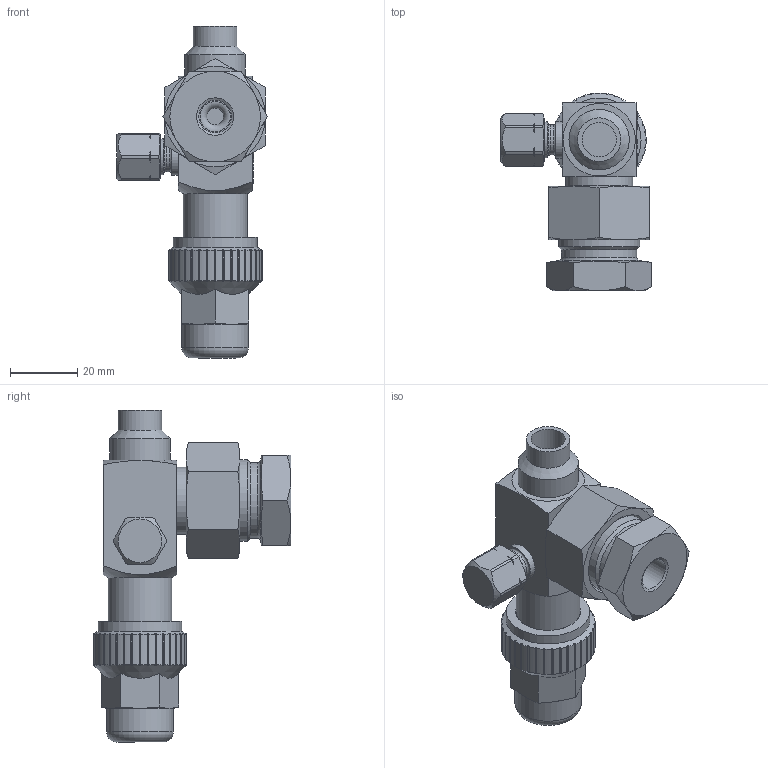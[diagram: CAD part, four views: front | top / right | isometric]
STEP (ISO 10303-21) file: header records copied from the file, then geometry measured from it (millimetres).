
FILE_DESCRIPTION(/* description */ (''),/* implementation_level */ '2;1');
FILE_NAME(/* name */ 'P:\AS\AS-CDM-7_16\AS-CDM-7_16.stp',/* time_stamp */ '2017-10-05T08:14:46+02:00',/* author */ ('neufeld'),/* organization */ (''),/* preprocessor_version */ 'ST-DEVELOPER v16.1',/* originating_system */ 'Autodesk Inventor 2016',/* authorisation */ '');
FILE_SCHEMA (('AUTOMOTIVE_DESIGN { 1 0 10303 214 3 1 1 }'));
Length unit declared in the file: millimetre
Products named in the file (2): AS-CDM-7_16; AS-CDM-7_16_1
Assembly tree (1 placements, depth 2):
  AS-CDM-7_16_1
    AS-CDM-7_16
Bounding box: 44.99 x 59.04 x 99 mm (x, y, z)
Volume: 57798.5 mm3; surface area: 17565.6 mm2
Topology: 1 solids, 4 shells, 939 faces, 2555 edges, 1686 vertices
Faces by surface type: plane 628, bspline 165, cylinder 79, cone 59, torus 8
Full cylindrical faces by diameter (mm): 4 x1, 6.5 x1, 9 x1, 9.4 x1, 9.738 x1, 10.1 x1, 10.2 x1, 10.72 x1, 11 x1, 13 x1, 13.5 x1, 14.2 x1, 16.8 x1, 17.3 x1, 18 x1, 19 x1, 19.9 x1, 20 x1, 22.5 x1, 24.301 x1, 25 x1
Entity records: 30415 total; most frequent: CARTESIAN_POINT 8206, ORIENTED_EDGE 4960, DIRECTION 3885, EDGE_CURVE 2480, LINE 1749, VECTOR 1749, VERTEX_POINT 1663, AXIS2_PLACEMENT_3D 1068
